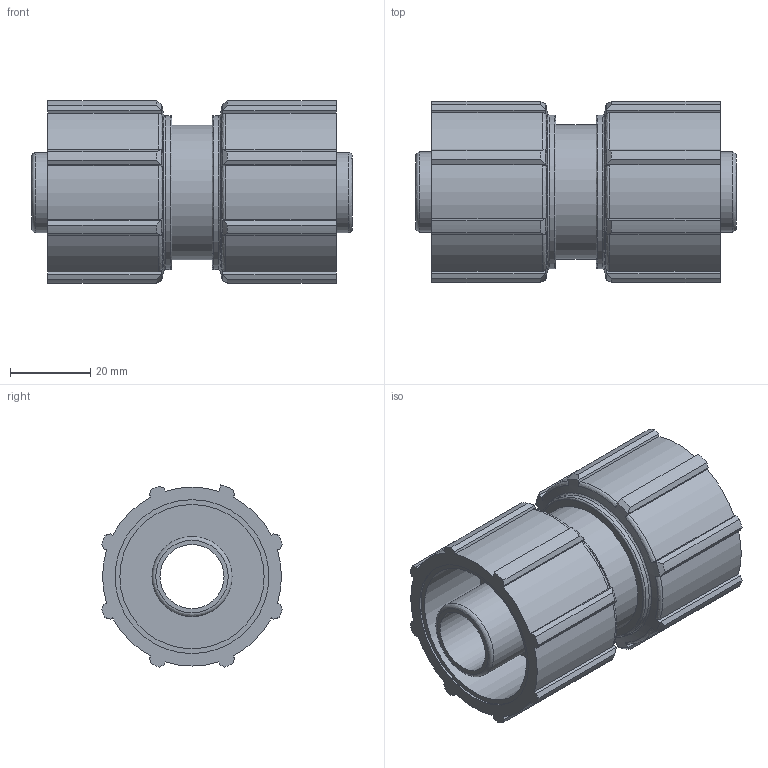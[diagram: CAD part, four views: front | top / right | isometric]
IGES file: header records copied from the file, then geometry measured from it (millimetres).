
Global section: file name: 079400020__0794060200A.ipt; native system: Autodesk Inventor 2015; preprocessor: unknown; author: KIM; date: 20180731.142050; units: millimetre
Bounding box: 80 x 45.16 x 45.47 mm (x, y, z)
Volume: 64758.4 mm3; surface area: 26300.7 mm2
Topology: 1 solids, 1 shells, 154 faces, 446 edges, 302 vertices
Faces by surface type: plane 72, cylinder 37, revolution 27, cone 18
Full cylindrical faces by diameter (mm): 20 x2, 33.6 x1, 38.4 x2
